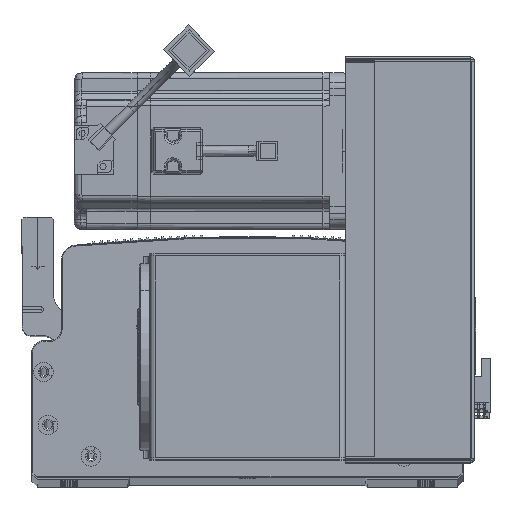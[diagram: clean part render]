
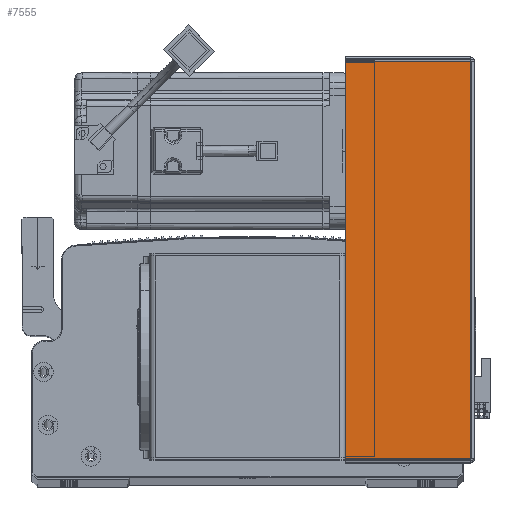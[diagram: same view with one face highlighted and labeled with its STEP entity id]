
A CAD part, top view. The second image highlights one B-rep face of the part: STEP entity #7555.
In plain terms, the highlighted planar face has unit normal (0, 0, 1) as drawn and (0, -1, 0) by its records, which use the part's own axes.
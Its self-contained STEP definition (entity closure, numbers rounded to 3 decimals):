
#436 = EDGE_CURVE ( 'NONE', #70781, #58131, #63714, .T. ) ;
#4170 = EDGE_CURVE ( 'NONE', #70781, #28551, #52092, .T. ) ;
#7555 = ADVANCED_FACE ( 'NONE', ( #30528 ), #63736, .F. ) ;
#10968 = VECTOR ( 'NONE', #43317, 1000. ) ;
#11112 = CARTESIAN_POINT ( 'NONE',  ( 64.5, -1.5, 0. ) ) ;
#12603 = CARTESIAN_POINT ( 'NONE',  ( 64.5, -1.5, -203.293 ) ) ;
#12896 = ORIENTED_EDGE ( 'NONE', *, *, #47340, .T. ) ;
#13460 = AXIS2_PLACEMENT_3D ( 'NONE', #20814, #78081, #35166 ) ;
#15928 = CARTESIAN_POINT ( 'NONE',  ( 0.737, -1.5, 0. ) ) ;
#18459 = EDGE_CURVE ( 'NONE', #28551, #51586, #27091, .T. ) ;
#20814 = CARTESIAN_POINT ( 'NONE',  ( 0., -1.5, 0. ) ) ;
#22877 = VECTOR ( 'NONE', #47543, 1000. ) ;
#27091 = LINE ( 'NONE', #66345, #60755 ) ;
#28551 = VERTEX_POINT ( 'NONE', #35683 ) ;
#30528 = FACE_OUTER_BOUND ( 'NONE', #45864, .T. ) ;
#35166 = DIRECTION ( 'NONE',  ( -1., 0., 0. ) ) ;
#35683 = CARTESIAN_POINT ( 'NONE',  ( 0.737, -1.5, -0.707 ) ) ;
#43317 = DIRECTION ( 'NONE',  ( 1., 0., 0. ) ) ;
#45864 = EDGE_LOOP ( 'NONE', ( #53807, #82572, #12896, #66389 ) ) ;
#47340 = EDGE_CURVE ( 'NONE', #58131, #51586, #57709, .T. ) ;
#47543 = DIRECTION ( 'NONE',  ( 0., 0., 1. ) ) ;
#49941 = CARTESIAN_POINT ( 'NONE',  ( 0., -1.5, -203.293 ) ) ;
#51586 = VERTEX_POINT ( 'NONE', #52481 ) ;
#52092 = LINE ( 'NONE', #15928, #82170 ) ;
#52481 = CARTESIAN_POINT ( 'NONE',  ( 64.5, -1.5, -0.707 ) ) ;
#53807 = ORIENTED_EDGE ( 'NONE', *, *, #4170, .F. ) ;
#57709 = LINE ( 'NONE', #11112, #22877 ) ;
#58131 = VERTEX_POINT ( 'NONE', #12603 ) ;
#60755 = VECTOR ( 'NONE', #65098, 1000. ) ;
#63714 = LINE ( 'NONE', #49941, #10968 ) ;
#63736 = PLANE ( 'NONE',  #13460 ) ;
#65098 = DIRECTION ( 'NONE',  ( 1., 0., 0. ) ) ;
#66345 = CARTESIAN_POINT ( 'NONE',  ( 0., -1.5, -0.707 ) ) ;
#66389 = ORIENTED_EDGE ( 'NONE', *, *, #18459, .F. ) ;
#66975 = CARTESIAN_POINT ( 'NONE',  ( 0.737, -1.5, -203.293 ) ) ;
#70781 = VERTEX_POINT ( 'NONE', #66975 ) ;
#78081 = DIRECTION ( 'NONE',  ( 0., 1., 0. ) ) ;
#82170 = VECTOR ( 'NONE', #88176, 1000. ) ;
#82572 = ORIENTED_EDGE ( 'NONE', *, *, #436, .T. ) ;
#88176 = DIRECTION ( 'NONE',  ( 0., 0., 1. ) ) ;
